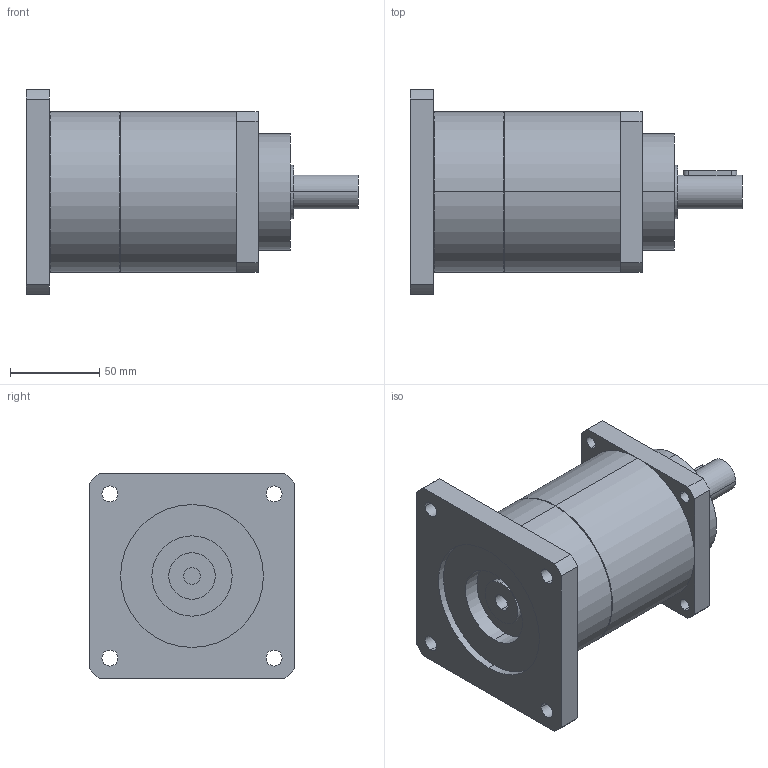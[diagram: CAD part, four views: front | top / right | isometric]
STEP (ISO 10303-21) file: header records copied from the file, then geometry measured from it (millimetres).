
FILE_DESCRIPTION(('CoCreate Modeling STEP Export'),'2;1');
FILE_NAME('GPT90_ig-9-12-16-20-25-28-35-40-50-70-100_19_B5T_9.525_P30.stp','2015-02-04T11:35:24',(''),(''),'CoCreate Modeling STEP processor for AP214 (Solid Model)','CoCreate Modeling 16.00C 25-Feb-2009 (C) Parametric Technology GmbH','');
FILE_SCHEMA(('AUTOMOTIVE_DESIGN { 1 0 10303 214 1 1 1 1 }'));
Length unit declared in the file: millimetre
Products named in the file (2): GPT90_ig-9-12-16-20-25-28-35-40-50-70-100_19_B5T_9.525_P30
Assembly tree (1 placements, depth 2):
  GPT90_ig-9-12-16-20-25-28-35-40-50-70-100_19_B5T_9.525_P30
    GPT90_ig-9-12-16-20-25-28-35-40-50-70-100_19_B5T_9.525_P30
Bounding box: 186 x 115 x 115 mm (x, y, z)
Volume: 966494.1 mm3; surface area: 81552 mm2
Topology: 1 solids, 1 shells, 77 faces, 206 edges, 141 vertices
Faces by surface type: cylinder 46, plane 27, cone 4
Entity records: 2596 total; most frequent: CARTESIAN_POINT 742, ORIENTED_EDGE 412, DIRECTION 324, EDGE_CURVE 206, VERTEX_POINT 141, AXIS2_PLACEMENT_3D 120, EDGE_LOOP 103, VECTOR 84
